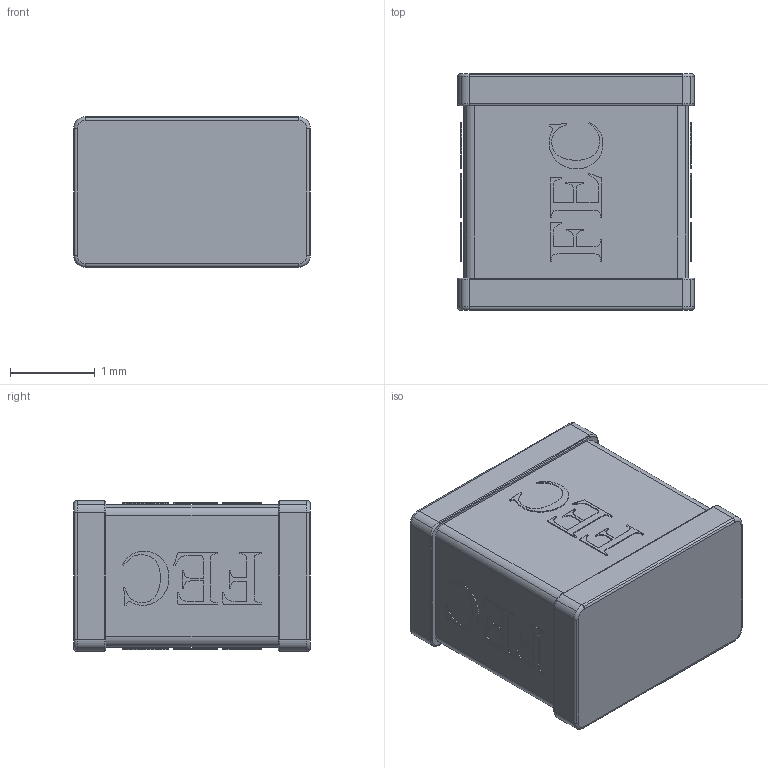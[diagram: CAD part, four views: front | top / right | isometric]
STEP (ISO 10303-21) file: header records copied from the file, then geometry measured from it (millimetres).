
FILE_DESCRIPTION(('STEP AP214'),'1');
FILE_NAME('tmp0.step','2023-08-10T13:26:42',(' '),(' '),'Spatial InterOp 3D',' ',' ');
FILE_SCHEMA(('AUTOMOTIVE_DESIGN { 1 0 10303 214 1 1 1 1 }'));
Length unit declared in the file: millimetre
Products named in the file (1): 1
Bounding box: 2.8 x 2.8 x 1.78 mm (x, y, z)
Volume: 12.9 mm3; surface area: 55.1 mm2
Topology: 15 solids, 15 shells, 1102 faces, 3184 edges, 2112 vertices
Faces by surface type: plane 1030, cylinder 56, torus 16
Entity records: 35714 total; most frequent: CARTESIAN_POINT 6413, ORIENTED_EDGE 6368, DIRECTION 5546, EDGE_CURVE 3184, LINE 3056, VECTOR 3056, VERTEX_POINT 2112, AXIS2_PLACEMENT_3D 1245
